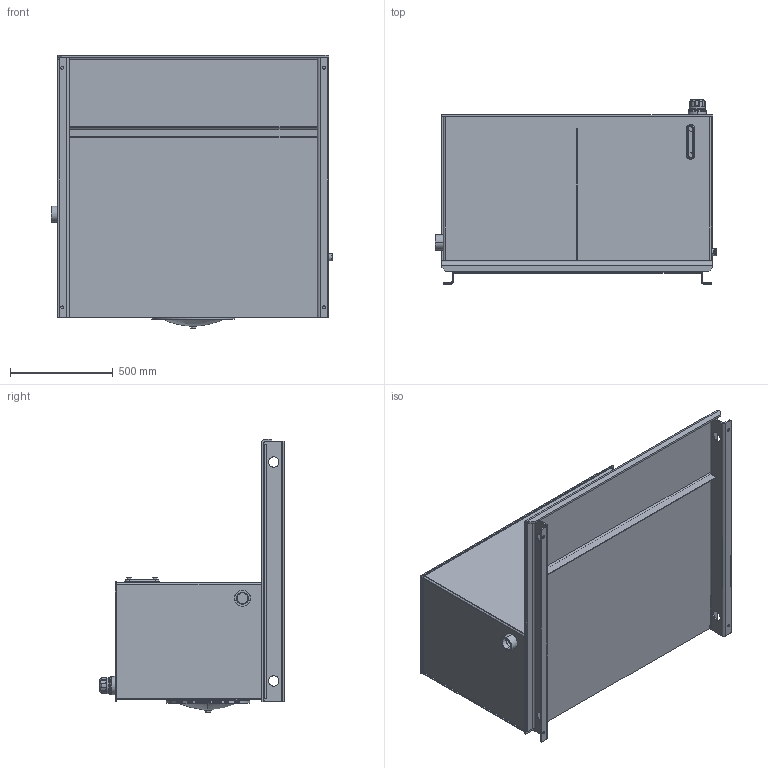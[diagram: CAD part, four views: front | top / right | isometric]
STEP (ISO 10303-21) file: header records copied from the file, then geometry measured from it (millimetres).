
FILE_DESCRIPTION (( 'STEP AP203' ), '1' );
FILE_NAME ('RLC120-FT.STEP', '2015-01-07T16:53:00', ( '' ), ( '' ), 'SwSTEP 2.0', 'SolidWorks 2014', '' );
FILE_SCHEMA (( 'CONFIG_CONTROL_DESIGN' ));
Length unit declared in the file: inch
Products named in the file (1): RLC120-FT
Bounding box: 1371.6 x 898.78 x 1332.63 mm (x, y, z)
Volume: 38742169.6 mm3; surface area: 12627170.1 mm2
Topology: 20 solids, 20 shells, 685 faces, 1607 edges, 961 vertices
Faces by surface type: cylinder 238, plane 236, cone 86, torus 51, bspline 46, sphere 28
Entity records: 21814 total; most frequent: CARTESIAN_POINT 5916, DIRECTION 3469, ORIENTED_EDGE 3190, EDGE_CURVE 1595, AXIS2_PLACEMENT_3D 1366, VERTEX_POINT 961, EDGE_LOOP 774, VECTOR 737
